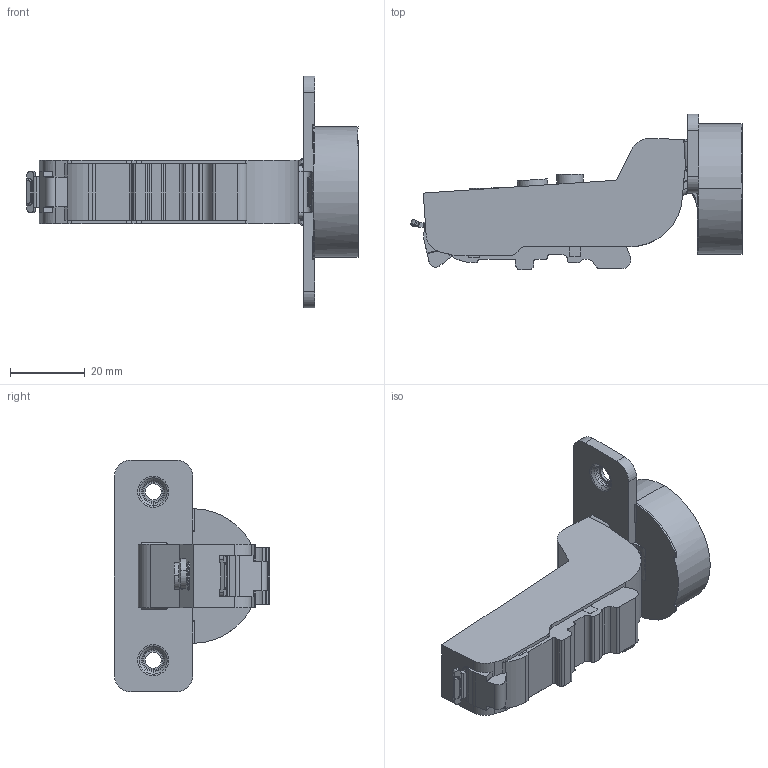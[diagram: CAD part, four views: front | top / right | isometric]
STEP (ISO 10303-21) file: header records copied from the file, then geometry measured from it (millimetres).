
FILE_DESCRIPTION (( 'STEP AP203' ), '1' );
FILE_NAME ('C81C815FAB DTC 3D CLOSE.STEP', '2024-07-25T07:31:35', ( '微软用户' ), ( '微软中国' ), 'SwSTEP 2.0', 'SolidWorks 2021', '' );
FILE_SCHEMA (( 'CONFIG_CONTROL_DESIGN' ));
Length unit declared in the file: millimetre
Products named in the file (1): C81C815FAB DTC 3D CLOSE
Bounding box: 88.73 x 41.53 x 62 mm (x, y, z)
Volume: 40126.9 mm3; surface area: 11915.9 mm2
Topology: 1 solids, 3 shells, 409 faces, 1176 edges, 770 vertices
Faces by surface type: plane 181, cylinder 153, torus 36, bspline 27, cone 12
Entity records: 15406 total; most frequent: CARTESIAN_POINT 4901, ORIENTED_EDGE 2352, DIRECTION 2034, EDGE_CURVE 1176, VERTEX_POINT 770, AXIS2_PLACEMENT_3D 707, LINE 620, VECTOR 620
